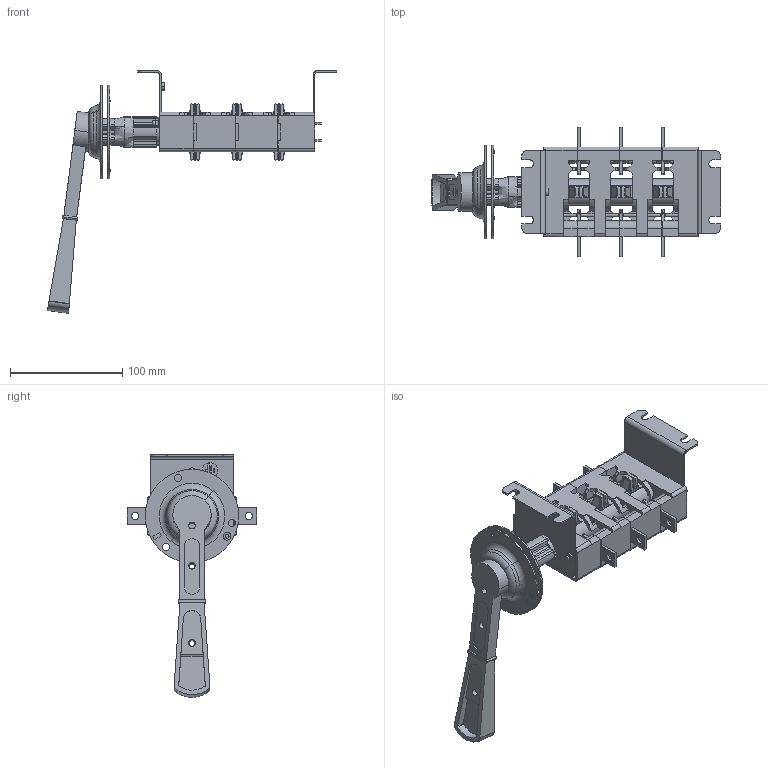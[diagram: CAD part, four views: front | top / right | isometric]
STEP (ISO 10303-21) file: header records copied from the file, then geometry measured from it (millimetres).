
FILE_DESCRIPTION (( 'STEP AP214' ), '1' );
FILE_NAME ('ﾂﾐ32-31ﾔ ﾃﾆﾈﾊ.642423.007-03 (ﾂ30250-100ﾀ).STEP', '2022-07-14T06:47:36', ( '' ), ( '' ), 'SwSTEP 2.0', 'SolidWorks 2018', '' );
FILE_SCHEMA (( 'AUTOMOTIVE_DESIGN' ));
Length unit declared in the file: millimetre
Products named in the file (27): 暑痫篑 镳噔 闷仁.735384.079; Ïëàñòèíà óïðàâëåíèÿ; Ãàéêà Ì4; ﾎﾁﾎﾋﾎﾗﾊﾀ_ﾍ; Øïèëüêà ñïåöèàëüíàÿ ÃÆÈÊ.754292.014_-01(à¥§ì¡ ); Êîíòàêò ïîäâèæíûé ÃÆÈÊ.745355.054; Áîêîâèíà ïðàâàÿ ÃÆÈÊ.735224.022; ﾂﾐ32-31ﾔ ﾃﾆﾈﾊ.642423.007-03 (ﾂ30250-100ﾀ); ﾂ琿 ﾃﾆﾈﾊ.303731.003; Ñêîáà ÃÆÈÊ.745326.032_“áâ ­®¢«¥­­®¥ á®áâ; ﾘ琺矜 D15; Ðóêîÿòêà ÃÆÈÊ.303658.010; 噪囗弼 闷仁.712378.001; Òàáëè÷êà äëÿ ñáîðêè ÷èñòàÿ áîëüøàÿ; Áîêîâèíà ëåâàÿ ÃÆÈÊ.735224.023; 买箅赅 闷仁.713141.009; ﾘ琺矜 D32; 想囫蜩磬_-01 (帷獱); Òàáëè÷êà äëÿ ñáîðêè ÷èñòàÿ; ﾂ鏆鮏 ﾃﾆﾈﾊ.745485.002; ﾘ琺矜 4; Êîðïóñ ëåâûé ÃÆÈÊ.735384.081; ﾏ跖浯 ﾃﾆﾈﾊ.753553.010; 澡犟囹铕 闷仁.745484.014; Âàë ÃÆÈÊ.715274.009_ƒ†ˆŠ.715274.009; ﾘ琺矜 ﾃﾆﾈﾊ.758491.056; Êîðïóñ ñðåäíèé ÃÆÈÊ.735384.080
Assembly tree (47 placements, depth 3):
  ﾂﾐ32-31ﾔ ﾃﾆﾈﾊ.642423.007-03 (ﾂ30250-100ﾀ)
    暑痫篑 镳噔 闷仁.735384.079
    Êîðïóñ ëåâûé ÃÆÈÊ.735384.081
    Êîðïóñ ñðåäíèé ÃÆÈÊ.735384.080  x2
    Áîêîâèíà ïðàâàÿ ÃÆÈÊ.735224.022
    Áîêîâèíà ëåâàÿ ÃÆÈÊ.735224.023
    Ãàéêà Ì4  x2
    ﾘ琺矜 4  x2
    Øïèëüêà ñïåöèàëüíàÿ ÃÆÈÊ.754292.014_-01(à¥§ì¡ )  x2
    ﾂ鏆鮏 ﾃﾆﾈﾊ.745485.002  x6
    买箅赅 闷仁.713141.009
    噪囗弼 闷仁.712378.001
    Ðóêîÿòêà ÃÆÈÊ.303658.010
      ﾘ琺矜 D32
      ﾘ琺矜 D15
      Ïëàñòèíà óïðàâëåíèÿ
      想囫蜩磬_-01 (帷獱)
      ﾎﾁﾎﾋﾎﾗﾊﾀ_ﾍ
    Òàáëè÷êà äëÿ ñáîðêè ÷èñòàÿ
    Òàáëè÷êà äëÿ ñáîðêè ÷èñòàÿ áîëüøàÿ
    ﾘ琺矜 ﾃﾆﾈﾊ.758491.056
    ﾂ琿 ﾃﾆﾈﾊ.303731.003
      Âàë ÃÆÈÊ.715274.009_ƒ†ˆŠ.715274.009
      Êîíòàêò ïîäâèæíûé ÃÆÈÊ.745355.054  x6
      Ñêîáà ÃÆÈÊ.745326.032_“áâ ­®¢«¥­­®¥ á®áâ  x6
    ﾏ跖浯 ﾃﾆﾈﾊ.753553.010  x2
    澡犟囹铕 闷仁.745484.014  x2
Bounding box: 257.36 x 115.12 x 215.88 mm (x, y, z)
Volume: 287997.8 mm3; surface area: 215354.5 mm2
Topology: 46 solids, 46 shells, 2110 faces, 5617 edges, 3656 vertices
Faces by surface type: plane 1211, cylinder 687, bspline 128, cone 48, torus 30, sphere 6
Entity records: 114886 total; most frequent: CARTESIAN_POINT 77694, ORIENTED_EDGE 7246, DIRECTION 7007, EDGE_CURVE 3623, AXIS2_PLACEMENT_3D 2426, VERTEX_POINT 2390, LINE 2155, VECTOR 2155
